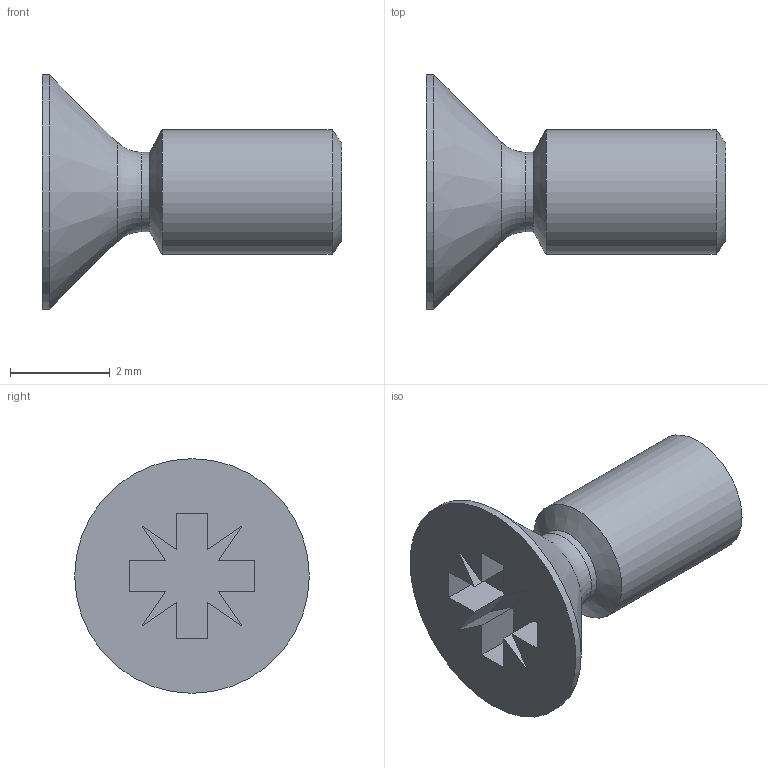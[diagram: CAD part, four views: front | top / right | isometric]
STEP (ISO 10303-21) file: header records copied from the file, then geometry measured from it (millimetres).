
FILE_DESCRIPTION(/* description */ ('Senkschrauben mit Kreuzschlitz M2,5x6 DIN 965 A - Edelstahl A2','CAx-IF Rec.Pracs.---Representation and Presentation of Product Manufacturing Information (PMI)---4.0---2014-10-13'),/* implementation_level */ '2;1');
FILE_NAME(/* name */ 'G:\Alle CAD Daten\CAMTEC_2020_Pack and Go\PSU CPS-i3000 - CPS-i2000\2530281.stp',/* time_stamp */ '2020-09-20T19:37:53+02:00',/* author */ ('rryba'),/* organization */ ('BOSSARD'),/* preprocessor_version */ 'ST-DEVELOPER v18.1',/* originating_system */ 'Autodesk Inventor 2021',/* authorisation */ '');
FILE_SCHEMA (('AP242_MANAGED_MODEL_BASED_3D_ENGINEERING_MIM_LF { 1 0 10303 442 1 1 4 }'));
Length unit declared in the file: millimetre
Products named in the file (1): 2530281
Bounding box: 6 x 4.7 x 4.7 mm (x, y, z)
Volume: 31.9 mm3; surface area: 92.3 mm2
Topology: 1 solids, 1 shells, 30 faces, 118 edges, 132 vertices
Faces by surface type: plane 23, cone 3, cylinder 3, torus 1
Full cylindrical faces by diameter (mm): 1.59 x1, 2.5 x1, 4.7 x1
Entity records: 1163 total; most frequent: CARTESIAN_POINT 241, ORIENTED_EDGE 154, DIRECTION 152, EDGE_CURVE 77, LINE 66, VECTOR 66, VERTEX_POINT 50, STYLED_ITEM 47
